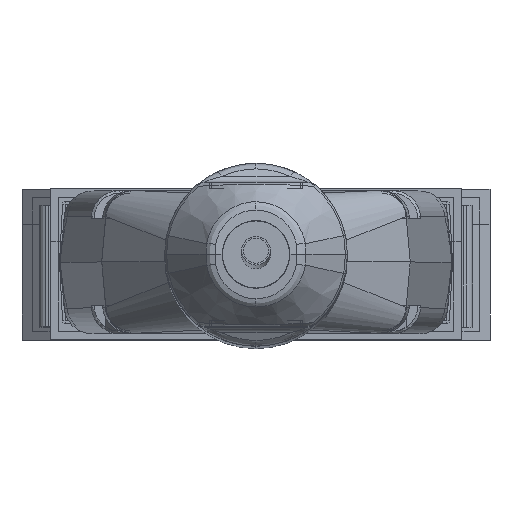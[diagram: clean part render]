
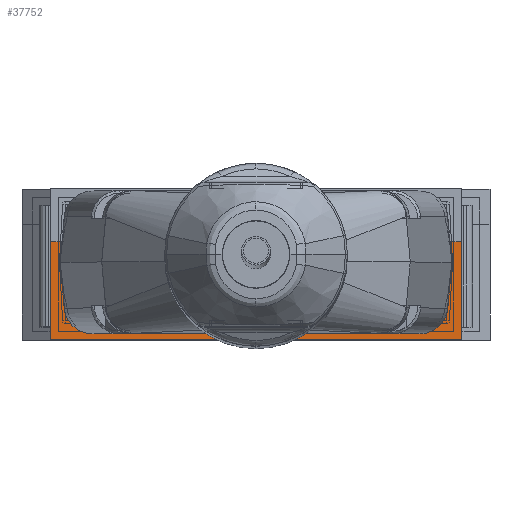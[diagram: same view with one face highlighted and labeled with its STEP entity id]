
A CAD part, top view. The second image highlights one B-rep face of the part: STEP entity #37752.
In plain terms, the highlighted planar face has unit normal (0, 0, 1).
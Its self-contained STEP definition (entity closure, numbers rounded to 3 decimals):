
#443 = DIRECTION ( 'NONE',  ( -1., 0., 0. ) ) ;
#1085 = VERTEX_POINT ( 'NONE', #7084 ) ;
#1813 = VERTEX_POINT ( 'NONE', #26765 ) ;
#2396 = ORIENTED_EDGE ( 'NONE', *, *, #28555, .T. ) ;
#2689 = VERTEX_POINT ( 'NONE', #43344 ) ;
#2872 = VECTOR ( 'NONE', #37724, 1000. ) ;
#3035 = CARTESIAN_POINT ( 'NONE',  ( -13.564, -2.908, -266.731 ) ) ;
#3470 = VECTOR ( 'NONE', #443, 1000. ) ;
#4177 = CARTESIAN_POINT ( 'NONE',  ( -14.605, 1.473, -266.731 ) ) ;
#4750 = ORIENTED_EDGE ( 'NONE', *, *, #38545, .T. ) ;
#5027 = CARTESIAN_POINT ( 'NONE',  ( -16.637, -2.908, -266.731 ) ) ;
#6434 = FACE_OUTER_BOUND ( 'NONE', #16140, .T. ) ;
#7084 = CARTESIAN_POINT ( 'NONE',  ( -14.605, -5.486, -266.731 ) ) ;
#7117 = ORIENTED_EDGE ( 'NONE', *, *, #8793, .T. ) ;
#8793 = EDGE_CURVE ( 'Defeatured_0_1277+Defeatured_0_1183+Defeatured_0_1325+Defeatured_0_1184', #34478, #1813, #38439, .T. ) ;
#9024 = ORIENTED_EDGE ( 'NONE', *, *, #20443, .T. ) ;
#9636 = VECTOR ( 'NONE', #37930, 1000. ) ;
#10510 = CARTESIAN_POINT ( 'NONE',  ( -16.637, -5.486, -266.731 ) ) ;
#11083 = EDGE_CURVE ( 'Defeatured_0_1277+Defeatured_0_1325+Defeatured_0_1271+Defeatured_0_1183', #31753, #34478, #34370, .T. ) ;
#11142 = VECTOR ( 'NONE', #48862, 1000. ) ;
#12081 = CARTESIAN_POINT ( 'NONE',  ( -8.255, 1.473, -266.731 ) ) ;
#12675 = VECTOR ( 'NONE', #38811, 1000. ) ;
#13898 = LINE ( 'NONE', #10510, #12675 ) ;
#14016 = CARTESIAN_POINT ( 'NONE',  ( -14.605, -5.486, -266.731 ) ) ;
#14460 =( BOUNDED_CURVE ( )  B_SPLINE_CURVE ( 3, ( #31178, #3035, #31701, #31515 ),
 .UNSPECIFIED., .F., .T. ) 
 B_SPLINE_CURVE_WITH_KNOTS ( ( 4, 4 ),
 ( 0.005, 1.334 ),
 .UNSPECIFIED. ) 
 CURVE ( )  GEOMETRIC_REPRESENTATION_ITEM ( )  RATIONAL_B_SPLINE_CURVE ( ( 1., 0.858, 0.858, 1. ) ) 
 REPRESENTATION_ITEM ( '' )  );
#15068 = DIRECTION ( 'NONE',  ( 0., 1., 0. ) ) ;
#15601 = CARTESIAN_POINT ( 'NONE',  ( -13.936, 0., -266.731 ) ) ;
#16140 = EDGE_LOOP ( 'NONE', ( #2396, #46494, #7117, #33588, #25001, #4750, #9024, #40793, #27456, #34744 ) ) ;
#16340 = CARTESIAN_POINT ( 'NONE',  ( -16.637, 1.473, -266.731 ) ) ;
#16746 = VECTOR ( 'NONE', #15068, 1000. ) ;
#17381 = CARTESIAN_POINT ( 'NONE',  ( 13.564, -2.908, -266.731 ) ) ;
#18645 =( BOUNDED_CURVE ( )  B_SPLINE_CURVE ( 3, ( #33360, #33541, #17381, #20899 ),
 .UNSPECIFIED., .F., .F. ) 
 B_SPLINE_CURVE_WITH_KNOTS ( ( 4, 4 ),
 ( 1.807, 3.137 ),
 .UNSPECIFIED. ) 
 CURVE ( )  GEOMETRIC_REPRESENTATION_ITEM ( )  RATIONAL_B_SPLINE_CURVE ( ( 1., 0.858, 0.858, 1. ) ) 
 REPRESENTATION_ITEM ( '' )  );
#18882 = VERTEX_POINT ( 'NONE', #25072 ) ;
#18955 = CARTESIAN_POINT ( 'NONE',  ( 14.605, -5.486, -266.731 ) ) ;
#19806 = VERTEX_POINT ( 'NONE', #4177 ) ;
#19862 = LINE ( 'NONE', #18955, #16746 ) ;
#20325 = LINE ( 'NONE', #14016, #9636 ) ;
#20443 = EDGE_CURVE ( 'Defeatured_0_1277+Defeatured_0_1174+Defeatured_0_1185+Defeatured_0_1175', #21665, #24245, #47269, .T. ) ;
#20476 = LINE ( 'NONE', #12081, #3470 ) ;
#20850 = CARTESIAN_POINT ( 'NONE',  ( -16.637, 2.743, -266.731 ) ) ;
#20899 = CARTESIAN_POINT ( 'NONE',  ( 13.467, -2.908, -266.731 ) ) ;
#21665 = VERTEX_POINT ( 'NONE', #24327 ) ;
#24245 = VERTEX_POINT ( 'NONE', #33160 ) ;
#24327 = CARTESIAN_POINT ( 'NONE',  ( -13.936, 0., -266.731 ) ) ;
#24726 = DIRECTION ( 'NONE',  ( 0., 0., -1. ) ) ;
#25001 = ORIENTED_EDGE ( 'NONE', *, *, #30546, .T. ) ;
#25072 = CARTESIAN_POINT ( 'NONE',  ( -13.467, -2.908, -266.731 ) ) ;
#25941 = EDGE_CURVE ( 'Defeatured_0_1277+Defeatured_0_1184+Defeatured_0_1183+Defeatured_0_1178', #1813, #2689, #18645, .T. ) ;
#26765 = CARTESIAN_POINT ( 'NONE',  ( 13.936, 0., -266.731 ) ) ;
#27208 = CARTESIAN_POINT ( 'NONE',  ( 14.605, 1.473, -266.731 ) ) ;
#27456 = ORIENTED_EDGE ( 'NONE', *, *, #50954, .F. ) ;
#28555 = EDGE_CURVE ( 'Defeatured_0_1277+Defeatured_0_1271+Defeatured_0_1273+Defeatured_0_1325', #44154, #31753, #19862, .T. ) ;
#30546 = EDGE_CURVE ( 'Defeatured_0_1277+Defeatured_0_1178+Defeatured_0_1184+Defeatured_0_1185', #2689, #18882, #50685, .T. ) ;
#31178 = CARTESIAN_POINT ( 'NONE',  ( -13.467, -2.908, -266.731 ) ) ;
#31515 = CARTESIAN_POINT ( 'NONE',  ( -13.936, 0., -266.731 ) ) ;
#31701 = CARTESIAN_POINT ( 'NONE',  ( -13.746, -1.778, -266.731 ) ) ;
#31753 = VERTEX_POINT ( 'NONE', #27208 ) ;
#32725 = CARTESIAN_POINT ( 'NONE',  ( 13.759, 1.473, -266.731 ) ) ;
#32967 = DIRECTION ( 'NONE',  ( -1., 0., 0. ) ) ;
#33160 = CARTESIAN_POINT ( 'NONE',  ( -13.759, 1.473, -266.731 ) ) ;
#33360 = CARTESIAN_POINT ( 'NONE',  ( 13.936, 0., -266.731 ) ) ;
#33541 = CARTESIAN_POINT ( 'NONE',  ( 13.746, -1.778, -266.731 ) ) ;
#33588 = ORIENTED_EDGE ( 'NONE', *, *, #25941, .T. ) ;
#34370 = LINE ( 'NONE', #16340, #11142 ) ;
#34478 = VERTEX_POINT ( 'NONE', #32725 ) ;
#34668 = EDGE_CURVE ( 'Defeatured_0_1277+Defeatured_0_1273+Defeatured_0_1272+Defeatured_0_1271', #1085, #44154, #13898, .T. ) ;
#34744 = ORIENTED_EDGE ( 'NONE', *, *, #34668, .T. ) ;
#34954 = CARTESIAN_POINT ( 'NONE',  ( -13.819, 1.039, -266.731 ) ) ;
#35274 = CARTESIAN_POINT ( 'NONE',  ( 13.819, 1.039, -266.731 ) ) ;
#35465 = CARTESIAN_POINT ( 'NONE',  ( 13.759, 1.473, -266.731 ) ) ;
#35478 = CARTESIAN_POINT ( 'NONE',  ( -13.878, 0.54, -266.731 ) ) ;
#36923 = CARTESIAN_POINT ( 'NONE',  ( 14.605, -5.486, -266.731 ) ) ;
#37724 = DIRECTION ( 'NONE',  ( -1., 0., 0. ) ) ;
#37752 = ADVANCED_FACE ( 'Defeatured_0_1277', ( #6434 ), #40730, .F. ) ;
#37930 = DIRECTION ( 'NONE',  ( 0., 1., 0. ) ) ;
#38439 =( BOUNDED_CURVE ( )  B_SPLINE_CURVE ( 3, ( #35465, #35274, #51090, #43209 ),
 .UNSPECIFIED., .F., .F. ) 
 B_SPLINE_CURVE_WITH_KNOTS ( ( 4, 4 ),
 ( 0.901, 1.334 ),
 .UNSPECIFIED. ) 
 CURVE ( )  GEOMETRIC_REPRESENTATION_ITEM ( )  RATIONAL_B_SPLINE_CURVE ( ( 1., 0.984, 0.984, 1. ) ) 
 REPRESENTATION_ITEM ( '' )  );
#38545 = EDGE_CURVE ( 'Defeatured_0_1277+Defeatured_0_1185+Defeatured_0_1178+Defeatured_0_1174', #18882, #21665, #14460, .T. ) ;
#38811 = DIRECTION ( 'NONE',  ( 1., 0., 0. ) ) ;
#39367 = CARTESIAN_POINT ( 'NONE',  ( -13.759, 1.473, -266.731 ) ) ;
#40730 = PLANE ( 'NONE',  #45965 ) ;
#40793 = ORIENTED_EDGE ( 'NONE', *, *, #49363, .T. ) ;
#43209 = CARTESIAN_POINT ( 'NONE',  ( 13.936, 0., -266.731 ) ) ;
#43344 = CARTESIAN_POINT ( 'NONE',  ( 13.467, -2.908, -266.731 ) ) ;
#44154 = VERTEX_POINT ( 'NONE', #36923 ) ;
#45965 = AXIS2_PLACEMENT_3D ( 'NONE', #20850, #24726, #32967 ) ;
#46494 = ORIENTED_EDGE ( 'NONE', *, *, #11083, .T. ) ;
#47269 =( BOUNDED_CURVE ( )  B_SPLINE_CURVE ( 3, ( #15601, #35478, #34954, #39367 ),
 .UNSPECIFIED., .F., .F. ) 
 B_SPLINE_CURVE_WITH_KNOTS ( ( 4, 4 ),
 ( 1.807, 2.24 ),
 .UNSPECIFIED. ) 
 CURVE ( )  GEOMETRIC_REPRESENTATION_ITEM ( )  RATIONAL_B_SPLINE_CURVE ( ( 1., 0.984, 0.984, 1. ) ) 
 REPRESENTATION_ITEM ( '' )  );
#48862 = DIRECTION ( 'NONE',  ( -1., 0., 0. ) ) ;
#49363 = EDGE_CURVE ( 'Defeatured_0_1277+Defeatured_0_1175+Defeatured_0_1174+Defeatured_0_1272', #24245, #19806, #20476, .T. ) ;
#50685 = LINE ( 'NONE', #5027, #2872 ) ;
#50954 = EDGE_CURVE ( 'Defeatured_0_1272+Defeatured_0_1277+Defeatured_0_1273+Defeatured_0_323', #1085, #19806, #20325, .T. ) ;
#51090 = CARTESIAN_POINT ( 'NONE',  ( 13.878, 0.54, -266.731 ) ) ;
